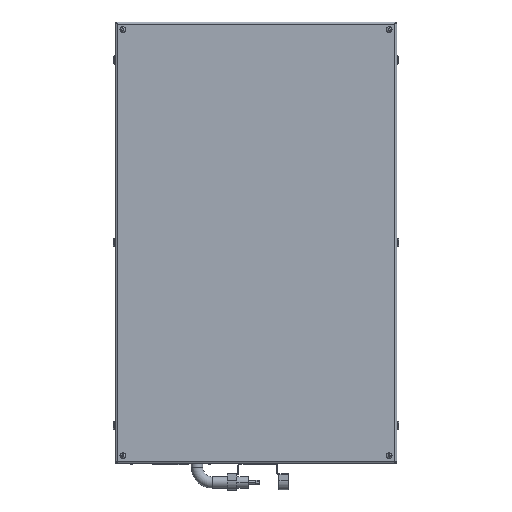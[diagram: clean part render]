
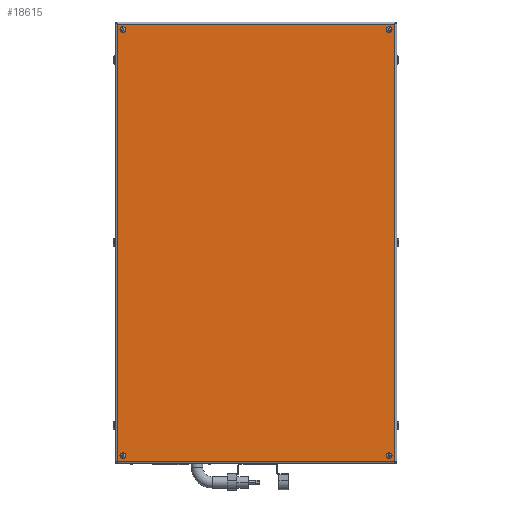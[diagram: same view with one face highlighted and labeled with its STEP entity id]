
A CAD part, front view. The second image highlights one B-rep face of the part: STEP entity #18615.
In plain terms, the highlighted planar face has unit normal (0, -1, 0).
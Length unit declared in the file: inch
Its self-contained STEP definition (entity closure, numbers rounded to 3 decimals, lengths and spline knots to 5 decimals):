
#318 = DIRECTION ( 'NONE',  ( 0., 0., -1. ) ) ;
#628 = VERTEX_POINT ( 'NONE', #6378 ) ;
#1118 = AXIS2_PLACEMENT_3D ( 'NONE', #3496, #14735, #318 ) ;
#1460 = DIRECTION ( 'NONE',  ( -1., 0., 0. ) ) ;
#1579 = FACE_BOUND ( 'NONE', #12480, .T. ) ;
#1988 = PLANE ( 'NONE',  #5570 ) ;
#2009 = DIRECTION ( 'NONE',  ( 0., 0., -1. ) ) ;
#2460 = AXIS2_PLACEMENT_3D ( 'NONE', #3317, #17396, #6296 ) ;
#2651 = CARTESIAN_POINT ( 'NONE',  ( -17.5, -14.5, -28. ) ) ;
#2861 = DIRECTION ( 'NONE',  ( 0., 0., -1. ) ) ;
#3047 = CARTESIAN_POINT ( 'NONE',  ( 18.3, -14.5, -28.734 ) ) ;
#3317 = CARTESIAN_POINT ( 'NONE',  ( -17.5, -14.5, 28. ) ) ;
#3496 = CARTESIAN_POINT ( 'NONE',  ( 17.5, -14.5, -28. ) ) ;
#3994 = LINE ( 'NONE', #7079, #9100 ) ;
#4191 = ORIENTED_EDGE ( 'NONE', *, *, #17640, .F. ) ;
#4504 = VERTEX_POINT ( 'NONE', #5390 ) ;
#4594 = CIRCLE ( 'NONE', #19669, 0.37402 ) ;
#4849 = DIRECTION ( 'NONE',  ( 0., 0., -1. ) ) ;
#4876 = FACE_OUTER_BOUND ( 'NONE', #5460, .T. ) ;
#5290 = CARTESIAN_POINT ( 'NONE',  ( 18.234, -14.5, -28.734 ) ) ;
#5366 = EDGE_LOOP ( 'NONE', ( #8016, #15800 ) ) ;
#5390 = CARTESIAN_POINT ( 'NONE',  ( -17.5, -14.5, 27.62598 ) ) ;
#5460 = EDGE_LOOP ( 'NONE', ( #16399, #5687, #13945, #18722 ) ) ;
#5541 = VECTOR ( 'NONE', #8883, 39.37008 ) ;
#5570 = AXIS2_PLACEMENT_3D ( 'NONE', #8327, #13220, #16373 ) ;
#5687 = ORIENTED_EDGE ( 'NONE', *, *, #6286, .T. ) ;
#5922 = CARTESIAN_POINT ( 'NONE',  ( 17.5, -14.5, -28.37402 ) ) ;
#6241 = FACE_BOUND ( 'NONE', #5366, .T. ) ;
#6286 = EDGE_CURVE ( 'NONE', #8659, #628, #9382, .T. ) ;
#6296 = DIRECTION ( 'NONE',  ( 0., 0., -1. ) ) ;
#6328 = VECTOR ( 'NONE', #1460, 39.37008 ) ;
#6378 = CARTESIAN_POINT ( 'NONE',  ( -18.234, -14.5, 28.734 ) ) ;
#6427 = CARTESIAN_POINT ( 'NONE',  ( -18.234, -14.5, -28.734 ) ) ;
#6429 = EDGE_LOOP ( 'NONE', ( #12344, #16823 ) ) ;
#6532 = DIRECTION ( 'NONE',  ( 0., -1., 0. ) ) ;
#6660 = CIRCLE ( 'NONE', #18696, 0.37402 ) ;
#6955 = CARTESIAN_POINT ( 'NONE',  ( -17.5, -14.5, 28.37402 ) ) ;
#7079 = CARTESIAN_POINT ( 'NONE',  ( 18.234, -14.5, 28.8 ) ) ;
#7414 = CARTESIAN_POINT ( 'NONE',  ( -18.234, -14.5, -28.8 ) ) ;
#7910 = CARTESIAN_POINT ( 'NONE',  ( -17.5, -14.5, -28.37402 ) ) ;
#7940 = VERTEX_POINT ( 'NONE', #7910 ) ;
#8007 = CIRCLE ( 'NONE', #11026, 0.37402 ) ;
#8016 = ORIENTED_EDGE ( 'NONE', *, *, #11190, .F. ) ;
#8022 = CARTESIAN_POINT ( 'NONE',  ( -18.3, -14.5, 28.734 ) ) ;
#8080 = CIRCLE ( 'NONE', #17101, 0.37402 ) ;
#8171 = VECTOR ( 'NONE', #9580, 39.37008 ) ;
#8327 = CARTESIAN_POINT ( 'NONE',  ( 0., -14.5, 0. ) ) ;
#8559 = DIRECTION ( 'NONE',  ( 0., 0., 1. ) ) ;
#8659 = VERTEX_POINT ( 'NONE', #17891 ) ;
#8883 = DIRECTION ( 'NONE',  ( 0., 0., -1. ) ) ;
#8907 = DIRECTION ( 'NONE',  ( 0., 0., -1. ) ) ;
#9100 = VECTOR ( 'NONE', #8559, 39.37008 ) ;
#9331 = ORIENTED_EDGE ( 'NONE', *, *, #12731, .F. ) ;
#9382 = LINE ( 'NONE', #8022, #6328 ) ;
#9511 = DIRECTION ( 'NONE',  ( 0., -1., 0. ) ) ;
#9580 = DIRECTION ( 'NONE',  ( 1., 0., 0. ) ) ;
#10003 = AXIS2_PLACEMENT_3D ( 'NONE', #12892, #19306, #18888 ) ;
#10295 = CARTESIAN_POINT ( 'NONE',  ( 17.5, -14.5, -27.62598 ) ) ;
#10400 = DIRECTION ( 'NONE',  ( 0., -1., 0. ) ) ;
#10594 = VERTEX_POINT ( 'NONE', #6427 ) ;
#10675 = CIRCLE ( 'NONE', #10003, 0.37402 ) ;
#11026 = AXIS2_PLACEMENT_3D ( 'NONE', #17253, #9511, #2861 ) ;
#11072 = LINE ( 'NONE', #3047, #8171 ) ;
#11171 = FACE_BOUND ( 'NONE', #6429, .T. ) ;
#11190 = EDGE_CURVE ( 'NONE', #14278, #4504, #20565, .T. ) ;
#11428 = EDGE_CURVE ( 'NONE', #628, #10594, #19960, .T. ) ;
#11466 = EDGE_LOOP ( 'NONE', ( #17858, #4191 ) ) ;
#11668 = VERTEX_POINT ( 'NONE', #11882 ) ;
#11698 = VERTEX_POINT ( 'NONE', #5922 ) ;
#11882 = CARTESIAN_POINT ( 'NONE',  ( 17.5, -14.5, 27.62598 ) ) ;
#12244 = CARTESIAN_POINT ( 'NONE',  ( 17.5, -14.5, 28. ) ) ;
#12344 = ORIENTED_EDGE ( 'NONE', *, *, #16093, .F. ) ;
#12480 = EDGE_LOOP ( 'NONE', ( #15601, #9331 ) ) ;
#12599 = FACE_BOUND ( 'NONE', #11466, .T. ) ;
#12731 = EDGE_CURVE ( 'NONE', #11698, #16372, #4594, .T. ) ;
#12892 = CARTESIAN_POINT ( 'NONE',  ( -17.5, -14.5, -28. ) ) ;
#13220 = DIRECTION ( 'NONE',  ( 0., -1., 0. ) ) ;
#13221 = EDGE_CURVE ( 'NONE', #4504, #14278, #8007, .T. ) ;
#13945 = ORIENTED_EDGE ( 'NONE', *, *, #11428, .T. ) ;
#14278 = VERTEX_POINT ( 'NONE', #6955 ) ;
#14335 = VERTEX_POINT ( 'NONE', #20209 ) ;
#14735 = DIRECTION ( 'NONE',  ( 0., -1., 0. ) ) ;
#15347 = DIRECTION ( 'NONE',  ( 0., -1., 0. ) ) ;
#15601 = ORIENTED_EDGE ( 'NONE', *, *, #20080, .F. ) ;
#15704 = VERTEX_POINT ( 'NONE', #18060 ) ;
#15800 = ORIENTED_EDGE ( 'NONE', *, *, #13221, .F. ) ;
#15889 = CIRCLE ( 'NONE', #16260, 0.37402 ) ;
#16093 = EDGE_CURVE ( 'NONE', #14335, #11668, #6660, .T. ) ;
#16160 = EDGE_CURVE ( 'NONE', #15704, #7940, #10675, .T. ) ;
#16260 = AXIS2_PLACEMENT_3D ( 'NONE', #12244, #10400, #8907 ) ;
#16372 = VERTEX_POINT ( 'NONE', #10295 ) ;
#16373 = DIRECTION ( 'NONE',  ( 0., 0., -1. ) ) ;
#16399 = ORIENTED_EDGE ( 'NONE', *, *, #17976, .T. ) ;
#16404 = DIRECTION ( 'NONE',  ( 0., -1., 0. ) ) ;
#16823 = ORIENTED_EDGE ( 'NONE', *, *, #20329, .F. ) ;
#17101 = AXIS2_PLACEMENT_3D ( 'NONE', #2651, #15347, #19942 ) ;
#17253 = CARTESIAN_POINT ( 'NONE',  ( -17.5, -14.5, 28. ) ) ;
#17396 = DIRECTION ( 'NONE',  ( 0., -1., 0. ) ) ;
#17640 = EDGE_CURVE ( 'NONE', #7940, #15704, #8080, .T. ) ;
#17858 = ORIENTED_EDGE ( 'NONE', *, *, #16160, .F. ) ;
#17875 = VERTEX_POINT ( 'NONE', #5290 ) ;
#17891 = CARTESIAN_POINT ( 'NONE',  ( 18.234, -14.5, 28.734 ) ) ;
#17976 = EDGE_CURVE ( 'NONE', #17875, #8659, #3994, .T. ) ;
#18006 = CARTESIAN_POINT ( 'NONE',  ( 17.5, -14.5, -28. ) ) ;
#18060 = CARTESIAN_POINT ( 'NONE',  ( -17.5, -14.5, -27.62598 ) ) ;
#18615 = ADVANCED_FACE ( 'NONE', ( #11171, #6241, #1579, #12599, #4876 ), #1988, .T. ) ;
#18696 = AXIS2_PLACEMENT_3D ( 'NONE', #19201, #6532, #4849 ) ;
#18722 = ORIENTED_EDGE ( 'NONE', *, *, #19344, .T. ) ;
#18888 = DIRECTION ( 'NONE',  ( 0., 0., -1. ) ) ;
#19201 = CARTESIAN_POINT ( 'NONE',  ( 17.5, -14.5, 28. ) ) ;
#19306 = DIRECTION ( 'NONE',  ( 0., -1., 0. ) ) ;
#19344 = EDGE_CURVE ( 'NONE', #10594, #17875, #11072, .T. ) ;
#19568 = CIRCLE ( 'NONE', #1118, 0.37402 ) ;
#19669 = AXIS2_PLACEMENT_3D ( 'NONE', #18006, #16404, #2009 ) ;
#19942 = DIRECTION ( 'NONE',  ( 0., 0., -1. ) ) ;
#19960 = LINE ( 'NONE', #7414, #5541 ) ;
#20080 = EDGE_CURVE ( 'NONE', #16372, #11698, #19568, .T. ) ;
#20209 = CARTESIAN_POINT ( 'NONE',  ( 17.5, -14.5, 28.37402 ) ) ;
#20329 = EDGE_CURVE ( 'NONE', #11668, #14335, #15889, .T. ) ;
#20565 = CIRCLE ( 'NONE', #2460, 0.37402 ) ;
